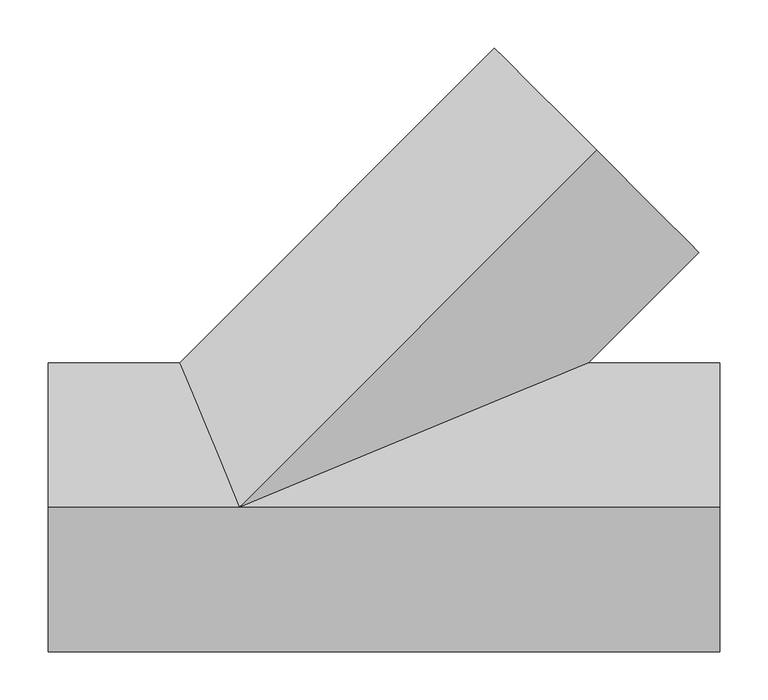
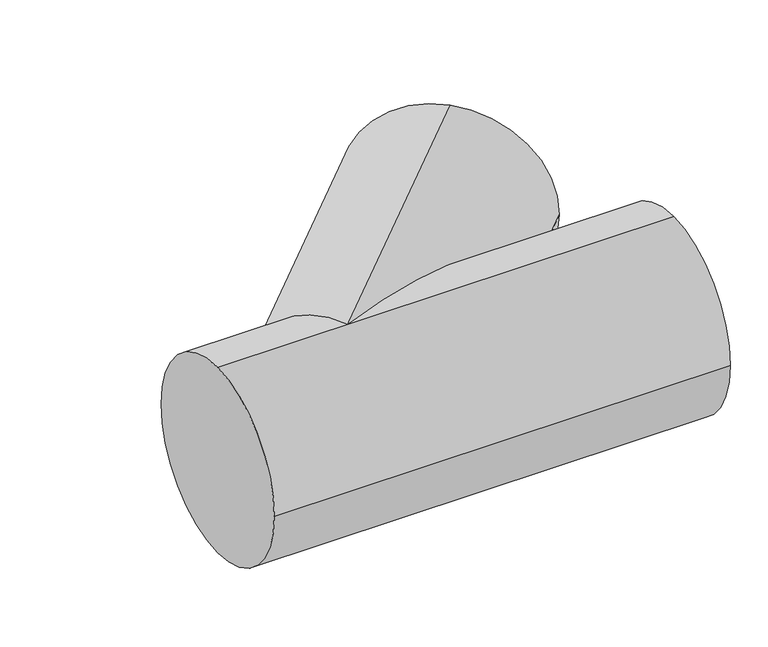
"""IFC4 building model written with IfcOpenShell, lengths in millimetres: duct fitting geometry, BL_ТройникВоздуховодов_Круглый-45 : Ниппельное соединение."""

from ifc_helpers import new_model, si_unit, frame, origin, place, context, project, spatial, circle_curve, ellipse_curve, source, transform, mapped, element, save
from ifc_brep_helpers import plane_surface, cylinder_surface, advanced_brep


def duct_fitting_7b0f3d01(model_context):
    return source(origin(), model_context, "Body", "AdvancedBrep", [
        advanced_brep(
        [(-348.492424, 0.0, 150.0), (-348.492424, 150.0, 0.0), (-348.492424, 0.0, -150.0), (-348.492424, -150.0, 0.0), (348.492424, 0.0, 150.0), (348.492424, -150.0, 0.0), (348.492424, 0.0, -150.0), (348.492424, 150.0, 0.0), (-150.0, 0.0, 150.0), (-150.0, 0.0, -150.0), (-212.1320344, 150.0, 0.0), (212.1320344, 150.0, 0.0), (220.7106781, 370.7106781, 150.0), (326.7766953, 264.6446609, 0.0), (220.7106781, 370.7106781, -150.0), (114.6446609, 476.7766953, 0.0)],
        [
            (0, 1, circle_curve(frame((-348.492424, 0.0, 0.0), z_axis=(-1.0, 0.0, 0.0), x_axis=(0.0, -1.0, 0.0)), 150.0)),
            (1, 2, circle_curve(frame((-348.492424, 0.0, 0.0), z_axis=(-1.0, 0.0, 0.0), x_axis=(0.0, -1.0, 0.0)), 150.0)),
            (2, 3, circle_curve(frame((-348.492424, 0.0, 0.0), z_axis=(-1.0, 0.0, 0.0), x_axis=(0.0, -1.0, 0.0)), 150.0)),
            (3, 0, circle_curve(frame((-348.492424, 0.0, 0.0), z_axis=(-1.0, 0.0, 0.0), x_axis=(0.0, -1.0, 0.0)), 150.0)),
            (4, 5, circle_curve(frame((348.492424, 0.0, 0.0), z_axis=(1.0, 0.0, 0.0), x_axis=(0.0, -1.0, 0.0)), 150.0)),
            (5, 6, circle_curve(frame((348.492424, 0.0, 0.0), z_axis=(1.0, 0.0, 0.0), x_axis=(0.0, -1.0, 0.0)), 150.0)),
            (6, 7, circle_curve(frame((348.492424, 0.0, 0.0), z_axis=(1.0, 0.0, 0.0), x_axis=(0.0, -1.0, 0.0)), 150.0)),
            (7, 4, circle_curve(frame((348.492424, 0.0, 0.0), z_axis=(1.0, 0.0, 0.0), x_axis=(0.0, -1.0, 0.0)), 150.0)),
            (3, 5),
            (4, 8),
            (8, 0),
            (2, 9),
            (9, 6),
            (1, 10),
            (10, 9, ellipse_curve(frame((-150.0, 0.0, 0.0), z_axis=(-0.9238795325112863, -0.38268343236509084, 0.0), x_axis=(-0.38268343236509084, 0.9238795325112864, 0.0)), 162.35883, 150.0)),
            (9, 11, ellipse_curve(frame((-150.0, 0.0, 0.0), z_axis=(0.38268343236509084, -0.9238795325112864, 0.0), x_axis=(-0.9238795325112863, -0.3826834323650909, 0.0)), 391.9688895, 150.0)),
            (11, 7),
            (11, 8, ellipse_curve(frame((-150.0, 0.0, 0.0), z_axis=(0.38268343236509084, -0.9238795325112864, 0.0), x_axis=(-0.9238795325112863, -0.3826834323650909, 0.0)), 391.9688895, 150.0)),
            (8, 10, ellipse_curve(frame((-150.0, 0.0, 0.0), z_axis=(-0.9238795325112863, -0.38268343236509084, 0.0), x_axis=(-0.38268343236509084, 0.9238795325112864, 0.0)), 162.35883, 150.0)),
            (12, 13, circle_curve(frame((220.7106781, 370.7106781, 0.0), z_axis=(0.7071067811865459, 0.7071067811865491, 0.0), x_axis=(0.7071067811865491, -0.7071067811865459, 0.0)), 150.0)),
            (13, 14, circle_curve(frame((220.7106781, 370.7106781, 0.0), z_axis=(0.7071067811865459, 0.7071067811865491, 0.0), x_axis=(0.7071067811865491, -0.7071067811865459, 0.0)), 150.0)),
            (14, 15, circle_curve(frame((220.7106781, 370.7106781, 0.0), z_axis=(0.7071067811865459, 0.7071067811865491, 0.0), x_axis=(0.7071067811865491, -0.7071067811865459, 0.0)), 150.0)),
            (15, 12, circle_curve(frame((220.7106781, 370.7106781, 0.0), z_axis=(0.7071067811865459, 0.7071067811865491, 0.0), x_axis=(0.7071067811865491, -0.7071067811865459, 0.0)), 150.0)),
            (12, 8),
            (11, 13),
            (9, 14),
            (10, 15),
        ],
        [
            plane_surface(frame((-348.492424, 0.0, 0.0), z_axis=(-1.0, 0.0, 0.0), x_axis=(0.0, 0.0, 1.0))),
            plane_surface(frame((348.492424, 0.0, 0.0), z_axis=(1.0, 0.0, 0.0), x_axis=(0.0, 0.0, 1.0))),
            cylinder_surface(frame((-348.492424, 0.0, 0.0), z_axis=(-1.0, 0.0, 0.0), x_axis=(0.0, -1.0, 0.0)), 150.0),
            plane_surface(frame((220.7106781, 370.7106781, 0.0), z_axis=(0.7071067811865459, 0.7071067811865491, 0.0), x_axis=(0.0, 0.0, 1.0))),
            cylinder_surface(frame((-150.0, 0.0, 0.0), z_axis=(-0.7071067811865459, -0.7071067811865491, 0.0), x_axis=(0.7071067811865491, -0.7071067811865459, 0.0)), 150.0),
        ],
        [
            (0, [[1, 2, 3, 4]]),
            (1, [[5, 6, 7, 8]]),
            (2, [[9, -5, 10, 11, -4]]),
            (2, [[12, 13, -6, -9, -3]]),
            (2, [[14, 15, -12, -2]]),
            (2, [[-13, 16, 17, -7]]),
            (2, [[-17, 18, -10, -8]]),
            (2, [[-11, 19, -14, -1]]),
            (3, [[20, 21, 22, 23]]),
            (4, [[24, -18, 25, -20]]),
            (4, [[-25, -16, 26, -21]]),
            (4, [[-26, -15, 27, -22]]),
            (4, [[-27, -19, -24, -23]]),
        ],
    ),
    ])


if __name__ == "__main__":
    model = new_model("IFC4")
    model_context = context("Model", 3, world=origin())
    ifc_project = project(units=[si_unit("LENGTHUNIT", "METRE", prefix="MILLI")], contexts=[model_context])
    site = spatial("IfcSite", under=ifc_project)
    building = spatial("IfcBuilding", under=site)
    placement = place(None, origin())
    duct_fitting_shape = duct_fitting_7b0f3d01(model_context)
    element("IfcDuctFitting", 1, ObjectType="BL_ТройникВоздуховодов_Круглый-45 : Ниппельное соединение", at=placement, inside=building, context=model_context, shape_type="MappedRepresentation", body=[
        mapped(duct_fitting_shape, transform((0.0, 0.0, 0.0), x_axis=(1.0, 0.0, 0.0), y_axis=(0.0, 1.0, 0.0), z_axis=(0.0, 0.0, 1.0))),
    ])
    save(model, "model.ifc")
